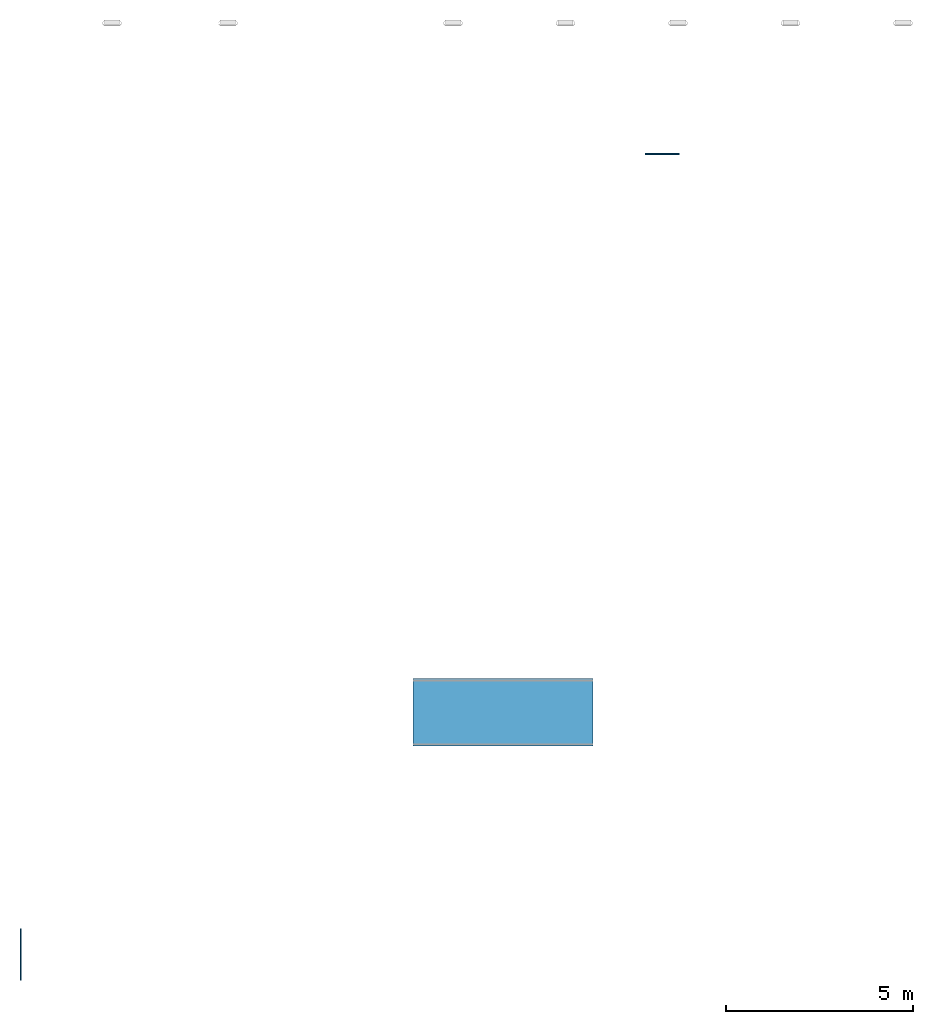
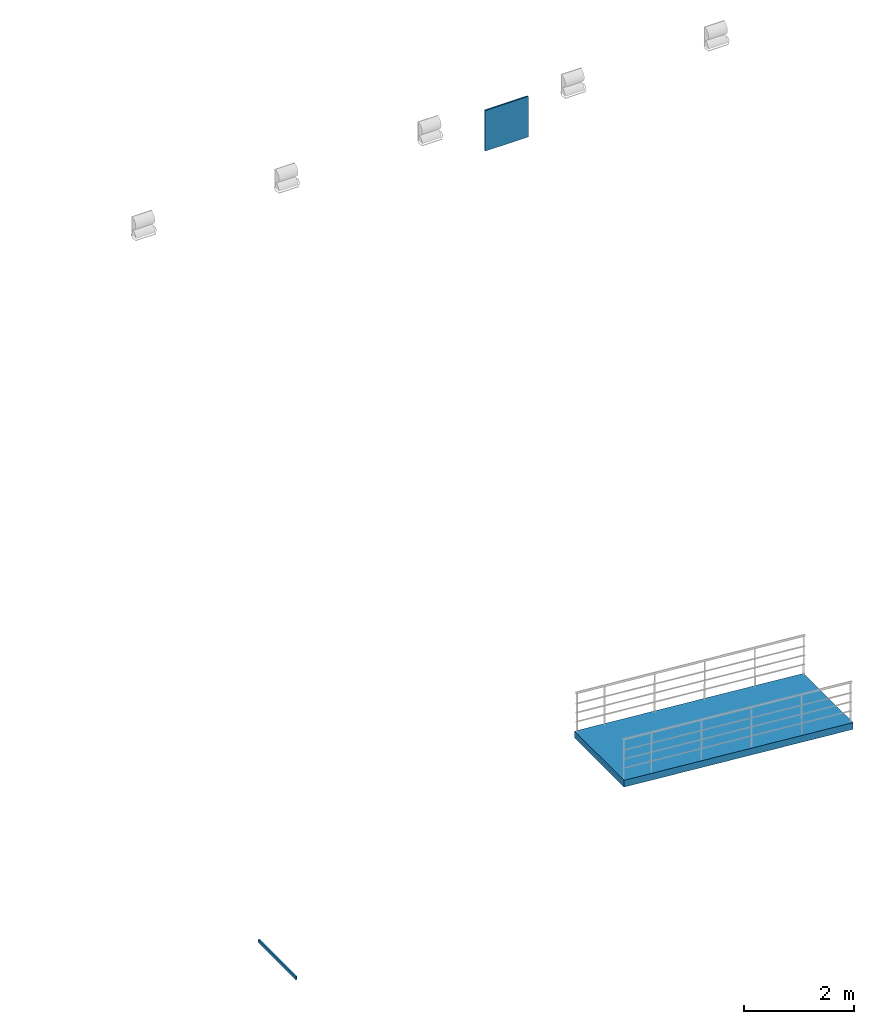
# One storey, incomplete: 2 walls, 1 ramp flight, 1 element without a shape of its own.
"""IFC2X3 building model written with IfcOpenShell, lengths in metres."""

import ifcopenshell
import ifcopenshell.guid

model = None  # the IFC model being written
_history = None  # IfcOwnerHistory: only IFC2X3 demands one
_inside = {}  # id of a spatial element -> (the spatial element, [elements in it])
_under = {}  # id of a project, library or spatial element -> (it, [spatial elements below it])
_declared = {}  # id of a project -> (the project, [libraries it declares])
_typed = {}  # id of a type object -> (the type object, [elements of that type])
_made_of = {}  # id of a material, layer set ... -> (it, [elements and type objects made of it])


def new_model(schema):
    """Start an empty IFC model of exactly this schema.

    Asked for "IFC4X3", IfcOpenShell would pick the latest addendum, in which some entities
    have other attributes; the version numbers below select the first issue.
    IFC2X3 requires an IfcOwnerHistory on every rooted entity: one is made here for all.
    """
    global model, _history
    if schema == "IFC4X3":
        model = ifcopenshell.file(schema_version=(4, 3, 0, 0))
    else:
        model = ifcopenshell.file(schema=schema)
    _inside.clear()
    _under.clear()
    _declared.clear()
    _typed.clear()
    _made_of.clear()
    _history = None
    if model.schema == "IFC2X3":
        org = make("IfcOrganization", Name="unknown")
        user = make(
            "IfcPersonAndOrganization",
            ThePerson=make("IfcPerson", FamilyName="unknown"),
            TheOrganization=org,
        )
        app = make(
            "IfcApplication",
            ApplicationDeveloper=org,
            Version="unknown",
            ApplicationFullName="unknown",
            ApplicationIdentifier="unknown",
        )
        _history = make(
            "IfcOwnerHistory",
            OwningUser=user,
            OwningApplication=app,
            ChangeAction="ADDED",
            CreationDate=0,
        )
    return model


def make(cls, **values):
    """One entity of the class cls with the attributes given. An attribute that is None is left unset."""
    return model.create_entity(
        cls, **{name: value for name, value in values.items() if value is not None}
    )


def entity(cls, *values):
    """Any entity or typed value of the class cls, its attributes in the order of the schema. None: left unset."""
    e = model.create_entity(cls)
    for i, value in enumerate(values):
        if value is not None:
            e[i] = value
    return e


def rooted(cls, **values):
    """An entity with a GlobalId (a new one), such as an element, a storey or a relation."""
    return make(cls, GlobalId=ifcopenshell.guid.new(), OwnerHistory=_history, **values)


def si_unit(unit_type, name, prefix=None):
    """IfcSIUnit, for example si_unit("LENGTHUNIT", "METRE", prefix="MILLI")."""
    return make("IfcSIUnit", UnitType=unit_type, Prefix=prefix, Name=name)


def converted_unit(unit_type, name, factor, base, dimensions=None, offset=None):
    """IfcConversionBasedUnit, such as the inch: factor (a typed value) times the base unit."""
    return make(
        "IfcConversionBasedUnit"
        if offset is None
        else "IfcConversionBasedUnitWithOffset",
        ConversionOffset=offset,
        Dimensions=None
        if dimensions is None
        else entity("IfcDimensionalExponents", *dimensions),
        UnitType=unit_type,
        Name=name,
        ConversionFactor=make(
            "IfcMeasureWithUnit", ValueComponent=factor, UnitComponent=base
        ),
    )


def derived_unit(unit_type, elements):
    """IfcDerivedUnit: a product of units, each with its exponent."""
    return make(
        "IfcDerivedUnit",
        Elements=[
            make("IfcDerivedUnitElement", Unit=unit, Exponent=power)
            for unit, power in elements
        ],
        UnitType=unit_type,
    )


def assignment(units):
    """IfcUnitAssignment: the units of a project."""
    return None if units is None else make("IfcUnitAssignment", Units=units)


def point(xyz):
    """IfcCartesianPoint."""
    return None if xyz is None else make("IfcCartesianPoint", Coordinates=xyz)


def direction(xyz):
    """IfcDirection."""
    return None if xyz is None else make("IfcDirection", DirectionRatios=xyz)


def frame(location, z_axis=None, x_axis=None):
    """IfcAxis2Placement3D, a coordinate frame: its origin and axes. An axis left out is left unset."""
    return make(
        "IfcAxis2Placement3D",
        Location=point(location),
        Axis=direction(z_axis),
        RefDirection=direction(x_axis),
    )


def frame_2d(location, x_axis=None):
    """IfcAxis2Placement2D, a coordinate frame in the plane: its origin and x axis."""
    return make(
        "IfcAxis2Placement2D", Location=point(location), RefDirection=direction(x_axis)
    )


def origin():
    """The frame at (0, 0, 0) with its axes left unset."""
    return frame((0.0, 0.0, 0.0))


def place(relative_to, where):
    """IfcLocalPlacement: puts the frame where relative to a parent placement (None: the world)."""
    return make(
        "IfcLocalPlacement", PlacementRelTo=relative_to, RelativePlacement=where
    )


def context(
    kind, dimensions, precision=None, world=None, true_north=None, identifier=None
):
    """IfcGeometricRepresentationContext, for example the 3D "Model" context."""
    return make(
        "IfcGeometricRepresentationContext",
        ContextIdentifier=identifier,
        ContextType=kind,
        CoordinateSpaceDimension=dimensions,
        Precision=precision,
        WorldCoordinateSystem=world,
        TrueNorth=true_north,
    )


def subcontext(parent, identifier, kind, view, scale=None):
    """IfcGeometricRepresentationSubContext, for example "Body" below "Model"."""
    return make(
        "IfcGeometricRepresentationSubContext",
        ContextIdentifier=identifier,
        ContextType=kind,
        ParentContext=parent,
        TargetScale=scale,
        TargetView=view,
    )


def project(units=None, contexts=None):
    """IfcProject with its units and contexts."""
    return rooted(
        "IfcProject",
        Name="project",
        RepresentationContexts=contexts,
        UnitsInContext=assignment(units),
    )


def spatial(cls, under=None, at=None, **own):
    """A site, building, storey or space (cls), placed at a placement, below another one or the project."""
    s = rooted(cls, ObjectPlacement=at, **own)
    if under is not None:
        _under.setdefault(under.id(), (under, []))[1].append(s)
    return s


def polyline(points):
    """IfcPolyline through the points."""
    return make("IfcPolyline", Points=[point(p) for p in points])


def profile(cls, at=None, kind="AREA", **sizes):
    """A parametric profile (cls). Its sizes go by their IFC names, for example OverallWidth=200.0."""
    return make(cls, ProfileType=kind, Position=at, **sizes)


def rectangle(**sizes):
    """IfcRectangleProfileDef."""
    return profile("IfcRectangleProfileDef", **sizes)


def outline(outer, holes=None, kind="AREA"):
    """IfcArbitraryClosedProfileDef: a profile drawn as a closed curve; with holes, ...WithVoids."""
    if holes is None:
        return make("IfcArbitraryClosedProfileDef", ProfileType=kind, OuterCurve=outer)
    return make(
        "IfcArbitraryProfileDefWithVoids",
        ProfileType=kind,
        OuterCurve=outer,
        InnerCurves=holes,
    )


def extrude(swept, where, along, depth):
    """IfcExtrudedAreaSolid: the profile swept, set in the frame where, extruded along a direction by depth."""
    return make(
        "IfcExtrudedAreaSolid",
        SweptArea=swept,
        Position=where,
        ExtrudedDirection=direction(along),
        Depth=depth,
    )


def shape(context_of_items, identifier, shape_type, items):
    """IfcShapeRepresentation: the items that make up one representation, for example the "Body"."""
    return make(
        "IfcShapeRepresentation",
        ContextOfItems=context_of_items,
        RepresentationIdentifier=identifier,
        RepresentationType=shape_type,
        Items=items,
    )


def material(Name=None, Category=None):
    """IfcMaterial."""
    return make("IfcMaterial", Name=Name, Category=Category)


def layer(
    of_material, thickness, ventilated=None, Name=None, Category=None, Priority=None
):
    """IfcMaterialLayer: one layer of a wall or slab, of a material (None: an air gap)."""
    return make(
        "IfcMaterialLayer",
        Material=of_material,
        LayerThickness=thickness,
        IsVentilated=ventilated,
        Name=Name,
        Category=Category,
        Priority=Priority,
    )


def layer_set(layers, Name=None):
    """IfcMaterialLayerSet."""
    return make("IfcMaterialLayerSet", MaterialLayers=layers, LayerSetName=Name)


def layer_usage(for_layer_set, set_direction, sense, offset, extent=None):
    """IfcMaterialLayerSetUsage: how a layer set lies in its element."""
    return make(
        "IfcMaterialLayerSetUsage",
        ForLayerSet=for_layer_set,
        LayerSetDirection=set_direction,
        DirectionSense=sense,
        OffsetFromReferenceLine=offset,
        ReferenceExtent=extent,
    )


def made_of(thing, what):
    """Note that an element or type object is made of a material, layer set ...; save() writes the relation."""
    if what is not None:
        _made_of.setdefault(what.id(), (what, []))[1].append(thing)
    return thing


def type_object(cls, material=None, **own):
    """A type object (cls), such as IfcWallType, which elements share."""
    return made_of(rooted(cls, **own), material)


def element(
    cls,
    number,
    at=None,
    inside=None,
    cuts=None,
    type_object=None,
    material=None,
    context=None,
    identifier="Body",
    shape_type=None,
    held_by="IfcProductDefinitionShape",
    body=None,
    shapes=None,
    **own,
):
    """One element of the class cls, such as IfcWall. Its Tag is "e" and its number.

    at: its placement. inside: the storey or other place that contains it. cuts: it is an
    opening in that element (IfcRelVoidsElement). A single representation is given by context,
    identifier, shape_type and body (its items); several are given by shapes. held_by: the class
    of the entity that holds the representations. save() writes the other relations.
    """
    e = rooted(cls, Tag="e%d" % number, ObjectPlacement=at, **own)
    if body is not None:
        shapes = [shape(context, identifier, shape_type, body)]
    if shapes is not None:
        e.Representation = make(held_by, Representations=shapes)
    if inside is not None:
        _inside.setdefault(inside.id(), (inside, []))[1].append(e)
    if cuts is not None:
        rooted(
            "IfcRelVoidsElement", RelatingBuildingElement=cuts, RelatedOpeningElement=e
        )
    if type_object is not None:
        _typed.setdefault(type_object.id(), (type_object, []))[1].append(e)
    return made_of(e, material)


def aggregate(whole, parts):
    """IfcRelAggregates: a whole, such as a stair, and the parts it consists of."""
    return rooted("IfcRelAggregates", RelatingObject=whole, RelatedObjects=parts)


def save(model, path):
    """Write the relations noted so far, then the file.

    IfcRelAggregates (storeys below a building ...), IfcRelContainedInSpatialStructure (elements
    in a storey), IfcRelDefinesByType, IfcRelAssociatesMaterial and IfcRelDeclares: one each for
    every whole, place, type object, material and project.
    """
    for whole, parts in _under.values():
        aggregate(whole, parts)
    for where, things in _inside.values():
        rooted(
            "IfcRelContainedInSpatialStructure",
            RelatedElements=things,
            RelatingStructure=where,
        )
    for kind, things in _typed.values():
        rooted("IfcRelDefinesByType", RelatedObjects=things, RelatingType=kind)
    for what, things in _made_of.values():
        rooted("IfcRelAssociatesMaterial", RelatedObjects=things, RelatingMaterial=what)
    for by, libraries in _declared.values():
        rooted("IfcRelDeclares", RelatingContext=by, RelatedDefinitions=libraries)
    model.write(path)


model = new_model("IFC2X3")

# Units and contexts
model_context = context("Model", 3, precision=1e-05, world=origin(), true_north=direction((6.12303176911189e-17, 1.0)))
body_context = subcontext(model_context, "Body", "Model", "MODEL_VIEW")
ifc_project = project(units=[si_unit("LENGTHUNIT", "METRE"), si_unit("AREAUNIT", "SQUARE_METRE"), si_unit("VOLUMEUNIT", "CUBIC_METRE"), converted_unit("PLANEANGLEUNIT", "DEGREE", entity("IfcRatioMeasure", 0.0174532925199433), si_unit("PLANEANGLEUNIT", "RADIAN"), dimensions=[0, 0, 0, 0, 0, 0, 0]), si_unit("MASSUNIT", "GRAM", prefix="KILO"), derived_unit("MASSDENSITYUNIT", [(si_unit("MASSUNIT", "GRAM", prefix="KILO"), 1), (si_unit("LENGTHUNIT", "METRE"), -3)]), si_unit("TIMEUNIT", "SECOND"), si_unit("FREQUENCYUNIT", "HERTZ"), si_unit("THERMODYNAMICTEMPERATUREUNIT", "DEGREE_CELSIUS"), derived_unit("THERMALTRANSMITTANCEUNIT", [(si_unit("MASSUNIT", "GRAM", prefix="KILO"), 1), (si_unit("THERMODYNAMICTEMPERATUREUNIT", "KELVIN"), -1), (si_unit("TIMEUNIT", "SECOND"), -3)]), derived_unit("VOLUMETRICFLOWRATEUNIT", [(si_unit("LENGTHUNIT", "METRE"), 3), (si_unit("TIMEUNIT", "SECOND"), -1)]), si_unit("ELECTRICCURRENTUNIT", "AMPERE"), si_unit("ELECTRICVOLTAGEUNIT", "VOLT"), si_unit("POWERUNIT", "WATT"), si_unit("FORCEUNIT", "NEWTON", prefix="KILO"), si_unit("ILLUMINANCEUNIT", "LUX"), si_unit("LUMINOUSFLUXUNIT", "LUMEN"), si_unit("LUMINOUSINTENSITYUNIT", "CANDELA"), derived_unit("USERDEFINED", [(si_unit("MASSUNIT", "GRAM", prefix="KILO"), -1), (si_unit("LENGTHUNIT", "METRE"), -2), (si_unit("TIMEUNIT", "SECOND"), 3), (si_unit("LUMINOUSFLUXUNIT", "LUMEN"), 1)]), derived_unit("LINEARVELOCITYUNIT", [(si_unit("LENGTHUNIT", "METRE"), 1), (si_unit("TIMEUNIT", "SECOND"), -1)]), si_unit("PRESSUREUNIT", "PASCAL"), derived_unit("USERDEFINED", [(si_unit("LENGTHUNIT", "METRE"), -2), (si_unit("MASSUNIT", "GRAM", prefix="KILO"), 1), (si_unit("TIMEUNIT", "SECOND"), -2)])], contexts=[model_context])

# Site, building, storey
site_placement = place(None, frame((26.9889013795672, -17.5624287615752, 0.0)))
site = spatial("IfcSite", under=ifc_project, at=site_placement, Name="Default", CompositionType="ELEMENT")
building_placement = place(site_placement, origin())
building = spatial("IfcBuilding", under=site, at=building_placement, Name="C. C. L. Monsenhor Antônio Sampaio", CompositionType="ELEMENT")
storey_placement = place(building_placement, origin())
storey = spatial("IfcBuildingStorey", under=building, at=storey_placement, Name="Nível 0", CompositionType="ELEMENT", Elevation=-1.18032517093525e-13)

# Walls
ifc_material_1 = material(Name="Acabamento Branco")
ifc_layer_1 = layer(ifc_material_1, 0.0035)
ifc_material_2 = material(Name="Massa corrida")
ifc_layer_2 = layer(ifc_material_2, 0.02)
ifc_material_3 = material(Name="4")
ifc_layer_3 = layer(ifc_material_3, 0.0015)
ifc_material_4 = material(Name="3")
ifc_layer_4 = layer(ifc_material_4, 0.005)
ifc_layer_set = layer_set([ifc_layer_1, ifc_layer_2, ifc_layer_3, ifc_layer_4], Name="Parede básica:EGenérica")
ifc_layer_usage_1 = layer_usage(ifc_layer_set, "AXIS2", "NEGATIVE", 0.015)
wall_type = type_object("IfcWallType", Name="Parede básica:EGenérica", PredefinedType="STANDARD", material=ifc_layer_set)
wall_1_placement = place(storey_placement, frame((-14.0055522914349, -32.8880663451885, 4.22994433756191), z_axis=(0.0, 0.0, 1.0), x_axis=(0.0, 1.0, 0.0)))
element("IfcWallStandardCase", 1, at=wall_1_placement, inside=storey, type_object=wall_type, material=ifc_layer_usage_1, Name="Parede básica:EGenérica", ObjectType="Parede básica:EGenérica", context=body_context, shape_type="SweptSolid", body=[
    extrude(rectangle(XDim=1.37, YDim=0.0300000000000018, at=frame_2d((0.685, 0.0), x_axis=(-1.0, 0.0))), origin(), (0.0, 0.0, 1.0), 0.0700556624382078),
])
ifc_layer_usage_2 = layer_usage(ifc_layer_set, "AXIS2", "NEGATIVE", 0.015)
wall_2_placement = place(storey_placement, frame((3.56086597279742, -10.8580663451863, 3.4), z_axis=(0.0, 0.0, 1.0), x_axis=(-1.0, 0.0, 0.0)))
element("IfcWallStandardCase", 2, at=wall_2_placement, inside=storey, type_object=wall_type, material=ifc_layer_usage_2, Name="Parede básica:EGenérica", ObjectType="Parede básica:EGenérica", context=body_context, shape_type="SweptSolid", body=[
    extrude(rectangle(XDim=0.901418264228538, YDim=0.0300000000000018, at=frame_2d((0.450709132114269, 0.0), x_axis=(-1.0, 0.0))), origin(), (0.0, 0.0, 1.0), 0.900000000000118),
])

# Ramp, ramp flight
ramp_placement = place(storey_placement, origin())
ramp = element("IfcRamp", 3, at=ramp_placement, inside=storey, Name="Rampa:8.33%", ObjectType="Rampa:8.33%", ShapeType="NOTDEFINED")
ifc_material_5 = material(Name=".Concreto")
ramp_flight_placement = place(ramp_placement, origin())
ramp_flight = element("IfcRampFlight", 4, at=ramp_flight_placement, material=ifc_material_5, Name="Rampa:8.33%:1", ObjectType="Rampa:8.33%", context=body_context, shape_type="SweptSolid", body=[
    extrude(outline(polyline([(0.12474003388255, -2.4), (0.275259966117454, -2.4), (-0.12474003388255, 2.4), (-0.275259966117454, 2.4), (0.12474003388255, -2.4)])), frame((-1.1403905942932, -26.6496189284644, 0.924740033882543), z_axis=(0.0, 1.0, 0.0), x_axis=(0.0, 0.0, -1.0)), (0.0, 0.0, 1.0), 1.8),
])
aggregate(ramp, [ramp_flight])

save(model, "model.ifc")
